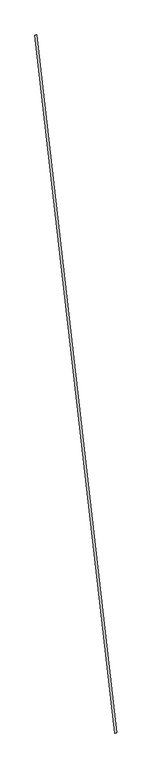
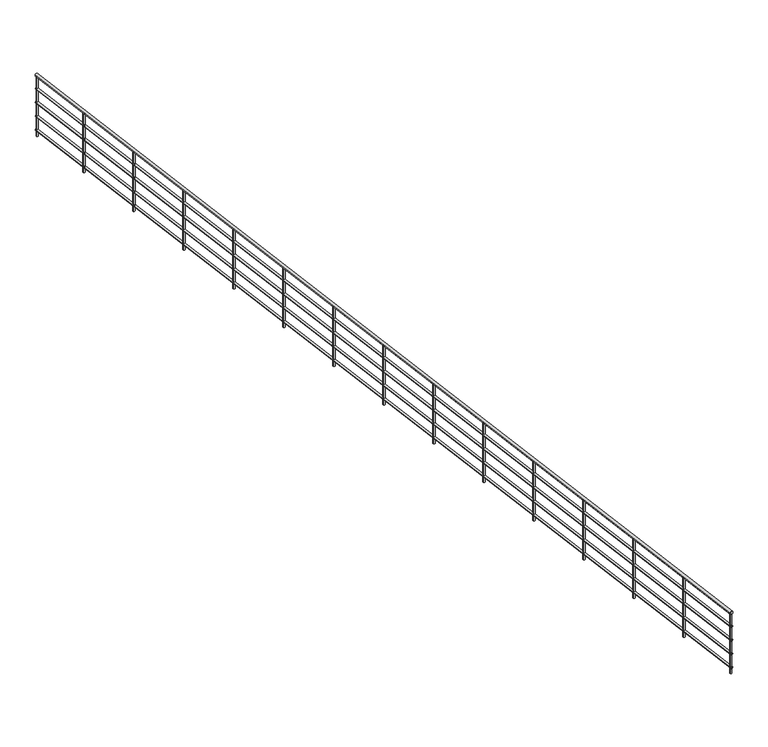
"""IFC4 building model written with IfcOpenShell, lengths in millimetres: railing geometry, r パイプ H900."""

from ifc_helpers import new_model, si_unit, point, frame, frame_2d, origin, place, context, project, spatial, circle_curve, trimmed, segment, composite_curve, outline, extrude, source, transform, mapped, element, save


def railing_1a1cc68e(model_context):
    return source(origin(), model_context, "Body", "SweptSolid", [
        extrude(outline(composite_curve([segment(trimmed(circle_curve(frame_2d((0.0, 20.0)), 20.0), [point((-19.9999999, 20.0))], [point((20.0, 20.0))], False, "CARTESIAN"), True, "CONTINUOUS"), segment(trimmed(circle_curve(frame_2d((0.0, 20.0)), 20.0), [point((20.0, 20.0))], [point((-19.9999999, 20.0))], False, "CARTESIAN"), True, "CONTINUOUS")], self_intersect=False)), frame((2778.8599143, -3447.4744365, 29500.0), z_axis=(-0.11354659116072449, 0.9935326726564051, 0.0), x_axis=(0.9935326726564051, 0.11354659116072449, 0.0)), (0.0, 0.0, 1.0), 13900.0),
        extrude(outline(composite_curve([segment(trimmed(circle_curve(frame_2d((0.0, 15.0)), 15.0), [point((-15.0, 15.0))], [point((15.0, 15.0))], False, "CARTESIAN"), True, "CONTINUOUS"), segment(trimmed(circle_curve(frame_2d((0.0, 15.0)), 15.0), [point((15.0, 15.0))], [point((-15.0, 15.0))], False, "CARTESIAN"), True, "CONTINUOUS")], self_intersect=False)), frame((2778.8599143, -3447.4744365, 29300.0), z_axis=(-0.11354659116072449, 0.9935326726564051, 0.0), x_axis=(0.9935326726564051, 0.11354659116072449, 0.0)), (0.0, 0.0, 1.0), 13900.0),
        extrude(outline(composite_curve([segment(trimmed(circle_curve(frame_2d((0.0, 15.0)), 15.0), [point((-15.0, 15.0))], [point((15.0, 15.0))], False, "CARTESIAN"), True, "CONTINUOUS"), segment(trimmed(circle_curve(frame_2d((0.0, 15.0)), 15.0), [point((15.0, 15.0))], [point((-15.0, 15.0))], False, "CARTESIAN"), True, "CONTINUOUS")], self_intersect=False)), frame((2778.8599143, -3447.4744365, 29100.0), z_axis=(-0.11354659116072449, 0.9935326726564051, 0.0), x_axis=(0.9935326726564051, 0.11354659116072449, 0.0)), (0.0, 0.0, 1.0), 13900.0),
        extrude(outline(composite_curve([segment(trimmed(circle_curve(frame_2d((0.0, 15.0)), 15.0), [point((-15.0, 15.0))], [point((15.0, 15.0))], False, "CARTESIAN"), True, "CONTINUOUS"), segment(trimmed(circle_curve(frame_2d((0.0, 15.0)), 15.0), [point((15.0, 15.0))], [point((-15.0, 15.0))], False, "CARTESIAN"), True, "CONTINUOUS")], self_intersect=False)), frame((2778.8599143, -3447.4744365, 28900.0), z_axis=(-0.11354659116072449, 0.9935326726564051, 0.0), x_axis=(0.9935326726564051, 0.11354659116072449, 0.0)), (0.0, 0.0, 1.0), 13900.0),
        extrude(outline(composite_curve([segment(trimmed(circle_curve(frame_2d((0.0, 15.0)), 15.0), [point((-15.0, 15.0))], [point((15.0, 15.0))], False, "CARTESIAN"), True, "CONTINUOUS"), segment(trimmed(circle_curve(frame_2d((0.0, 15.0)), 15.0), [point((15.0, 15.0))], [point((-15.0, 15.0))], False, "CARTESIAN"), True, "CONTINUOUS")], self_intersect=False)), frame((2778.8599143, -3447.4744365, 28700.0), z_axis=(-0.11354659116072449, 0.9935326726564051, 0.0), x_axis=(0.9935326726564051, 0.11354659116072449, 0.0)), (0.0, 0.0, 1.0), 13900.0),
        extrude(outline(composite_curve([segment(trimmed(circle_curve(frame_2d((1308.4315588, 9418.7736744)), 12.5), [point((1296.0124004, 9417.354342))], [point((1320.8507172, 9420.1930068))], False, "CARTESIAN"), True, "CONTINUOUS"), segment(trimmed(circle_curve(frame_2d((1308.4315588, 9418.7736744)), 12.5), [point((1320.8507172, 9420.1930068))], [point((1296.0124004, 9417.354342))], False, "CARTESIAN"), True, "CONTINUOUS")], self_intersect=False)), frame((0.0, 0.0, 28600.0), z_axis=(0.0, 0.0, 1.0), x_axis=(1.0, 0.0, 0.0)), (0.0, 0.0, 1.0), 860.0),
        extrude(outline(composite_curve([segment(trimmed(circle_curve(frame_2d((1421.9781499, 8425.2410017)), 12.5), [point((1409.5589915, 8423.8216693))], [point((1434.3973083, 8426.6603341))], False, "CARTESIAN"), True, "CONTINUOUS"), segment(trimmed(circle_curve(frame_2d((1421.9781499, 8425.2410017)), 12.5), [point((1434.3973083, 8426.6603341))], [point((1409.5589915, 8423.8216693))], False, "CARTESIAN"), True, "CONTINUOUS")], self_intersect=False)), frame((0.0, 0.0, 28600.0), z_axis=(0.0, 0.0, 1.0), x_axis=(1.0, 0.0, 0.0)), (0.0, 0.0, 1.0), 860.0),
        extrude(outline(composite_curve([segment(trimmed(circle_curve(frame_2d((1535.5247411, 7431.7083291)), 12.5), [point((1523.1055827, 7430.2889967))], [point((1547.9438995, 7433.1276615))], False, "CARTESIAN"), True, "CONTINUOUS"), segment(trimmed(circle_curve(frame_2d((1535.5247411, 7431.7083291)), 12.5), [point((1547.9438995, 7433.1276615))], [point((1523.1055827, 7430.2889967))], False, "CARTESIAN"), True, "CONTINUOUS")], self_intersect=False)), frame((0.0, 0.0, 28600.0), z_axis=(0.0, 0.0, 1.0), x_axis=(1.0, 0.0, 0.0)), (0.0, 0.0, 1.0), 860.0),
        extrude(outline(composite_curve([segment(trimmed(circle_curve(frame_2d((1649.0713323, 6438.1756564)), 12.5), [point((1636.6521739, 6436.756324))], [point((1661.4904907, 6439.5949888))], False, "CARTESIAN"), True, "CONTINUOUS"), segment(trimmed(circle_curve(frame_2d((1649.0713323, 6438.1756564)), 12.5), [point((1661.4904907, 6439.5949888))], [point((1636.6521739, 6436.756324))], False, "CARTESIAN"), True, "CONTINUOUS")], self_intersect=False)), frame((0.0, 0.0, 28600.0), z_axis=(0.0, 0.0, 1.0), x_axis=(1.0, 0.0, 0.0)), (0.0, 0.0, 1.0), 860.0),
        extrude(outline(composite_curve([segment(trimmed(circle_curve(frame_2d((1762.6179234, 5444.6429838)), 12.5), [point((1750.198765, 5443.2236514))], [point((1775.0370818, 5446.0623161))], False, "CARTESIAN"), True, "CONTINUOUS"), segment(trimmed(circle_curve(frame_2d((1762.6179234, 5444.6429838)), 12.5), [point((1775.0370818, 5446.0623161))], [point((1750.198765, 5443.2236514))], False, "CARTESIAN"), True, "CONTINUOUS")], self_intersect=False)), frame((0.0, 0.0, 28600.0), z_axis=(0.0, 0.0, 1.0), x_axis=(1.0, 0.0, 0.0)), (0.0, 0.0, 1.0), 860.0),
        extrude(outline(composite_curve([segment(trimmed(circle_curve(frame_2d((1876.1645146, 4451.1103111)), 12.5), [point((1863.7453562, 4449.6909787))], [point((1888.583673, 4452.5296435))], False, "CARTESIAN"), True, "CONTINUOUS"), segment(trimmed(circle_curve(frame_2d((1876.1645146, 4451.1103111)), 12.5), [point((1888.583673, 4452.5296435))], [point((1863.7453562, 4449.6909787))], False, "CARTESIAN"), True, "CONTINUOUS")], self_intersect=False)), frame((0.0, 0.0, 28600.0), z_axis=(0.0, 0.0, 1.0), x_axis=(1.0, 0.0, 0.0)), (0.0, 0.0, 1.0), 860.0),
        extrude(outline(composite_curve([segment(trimmed(circle_curve(frame_2d((1989.7111057, 3457.5776384)), 12.5), [point((1977.2919473, 3456.1583061))], [point((2002.1302642, 3458.9969708))], False, "CARTESIAN"), True, "CONTINUOUS"), segment(trimmed(circle_curve(frame_2d((1989.7111057, 3457.5776384)), 12.5), [point((2002.1302642, 3458.9969708))], [point((1977.2919473, 3456.1583061))], False, "CARTESIAN"), True, "CONTINUOUS")], self_intersect=False)), frame((0.0, 0.0, 28600.0), z_axis=(0.0, 0.0, 1.0), x_axis=(1.0, 0.0, 0.0)), (0.0, 0.0, 1.0), 860.0),
        extrude(outline(composite_curve([segment(trimmed(circle_curve(frame_2d((2103.2576969, 2464.0449658)), 12.5), [point((2090.8385385, 2462.6256334))], [point((2115.6768553, 2465.4642982))], False, "CARTESIAN"), True, "CONTINUOUS"), segment(trimmed(circle_curve(frame_2d((2103.2576969, 2464.0449658)), 12.5), [point((2115.6768553, 2465.4642982))], [point((2090.8385385, 2462.6256334))], False, "CARTESIAN"), True, "CONTINUOUS")], self_intersect=False)), frame((0.0, 0.0, 28600.0), z_axis=(0.0, 0.0, 1.0), x_axis=(1.0, 0.0, 0.0)), (0.0, 0.0, 1.0), 860.0),
        extrude(outline(composite_curve([segment(trimmed(circle_curve(frame_2d((2216.8042881, 1470.5122931)), 12.5), [point((2204.3851297, 1469.0929607))], [point((2229.2234465, 1471.9316255))], False, "CARTESIAN"), True, "CONTINUOUS"), segment(trimmed(circle_curve(frame_2d((2216.8042881, 1470.5122931)), 12.5), [point((2229.2234465, 1471.9316255))], [point((2204.3851297, 1469.0929607))], False, "CARTESIAN"), True, "CONTINUOUS")], self_intersect=False)), frame((0.0, 0.0, 28600.0), z_axis=(0.0, 0.0, 1.0), x_axis=(1.0, 0.0, 0.0)), (0.0, 0.0, 1.0), 860.0),
        extrude(outline(composite_curve([segment(trimmed(circle_curve(frame_2d((2330.3508792, 476.9796205)), 12.5), [point((2317.9317208, 475.5602881))], [point((2342.7700376, 478.3989529))], False, "CARTESIAN"), True, "CONTINUOUS"), segment(trimmed(circle_curve(frame_2d((2330.3508792, 476.9796205)), 12.5), [point((2342.7700376, 478.3989529))], [point((2317.9317208, 475.5602881))], False, "CARTESIAN"), True, "CONTINUOUS")], self_intersect=False)), frame((0.0, 0.0, 28600.0), z_axis=(0.0, 0.0, 1.0), x_axis=(1.0, 0.0, 0.0)), (0.0, 0.0, 1.0), 860.0),
        extrude(outline(composite_curve([segment(trimmed(circle_curve(frame_2d((2443.8974704, -516.5530522)), 12.5), [point((2431.478312, -517.9723846))], [point((2456.3166288, -515.1337198))], False, "CARTESIAN"), True, "CONTINUOUS"), segment(trimmed(circle_curve(frame_2d((2443.8974704, -516.5530522)), 12.5), [point((2456.3166288, -515.1337198))], [point((2431.478312, -517.9723846))], False, "CARTESIAN"), True, "CONTINUOUS")], self_intersect=False)), frame((0.0, 0.0, 28600.0), z_axis=(0.0, 0.0, 1.0), x_axis=(1.0, 0.0, 0.0)), (0.0, 0.0, 1.0), 860.0),
        extrude(outline(composite_curve([segment(trimmed(circle_curve(frame_2d((2557.4440615, -1510.0857248)), 12.5), [point((2545.0249031, -1511.5050572))], [point((2569.86322, -1508.6663925))], False, "CARTESIAN"), True, "CONTINUOUS"), segment(trimmed(circle_curve(frame_2d((2557.4440615, -1510.0857248)), 12.5), [point((2569.86322, -1508.6663925))], [point((2545.0249031, -1511.5050572))], False, "CARTESIAN"), True, "CONTINUOUS")], self_intersect=False)), frame((0.0, 0.0, 28600.0), z_axis=(0.0, 0.0, 1.0), x_axis=(1.0, 0.0, 0.0)), (0.0, 0.0, 1.0), 860.0),
        extrude(outline(composite_curve([segment(trimmed(circle_curve(frame_2d((2670.9906527, -2503.6183975)), 12.5), [point((2658.5714943, -2505.0377299))], [point((2683.4098111, -2502.1990651))], False, "CARTESIAN"), True, "CONTINUOUS"), segment(trimmed(circle_curve(frame_2d((2670.9906527, -2503.6183975)), 12.5), [point((2683.4098111, -2502.1990651))], [point((2658.5714943, -2505.0377299))], False, "CARTESIAN"), True, "CONTINUOUS")], self_intersect=False)), frame((0.0, 0.0, 28600.0), z_axis=(0.0, 0.0, 1.0), x_axis=(1.0, 0.0, 0.0)), (0.0, 0.0, 1.0), 860.0),
        extrude(outline(composite_curve([segment(trimmed(circle_curve(frame_2d((1201.9460439, 10350.5219292)), 12.5), [point((1189.5268855, 10349.1025968))], [point((1214.3652023, 10351.9412616))], False, "CARTESIAN"), True, "CONTINUOUS"), segment(trimmed(circle_curve(frame_2d((1201.9460439, 10350.5219292)), 12.5), [point((1214.3652023, 10351.9412616))], [point((1189.5268855, 10349.1025968))], False, "CARTESIAN"), True, "CONTINUOUS")], self_intersect=False)), frame((0.0, 0.0, 28600.0), z_axis=(0.0, 0.0, 1.0), x_axis=(1.0, 0.0, 0.0)), (0.0, 0.0, 1.0), 860.0),
        extrude(outline(composite_curve([segment(trimmed(circle_curve(frame_2d((2777.4761675, -3435.3666523)), 12.5), [point((2765.0570091, -3436.7859847))], [point((2789.895326, -3433.94732))], False, "CARTESIAN"), True, "CONTINUOUS"), segment(trimmed(circle_curve(frame_2d((2777.4761675, -3435.3666523)), 12.5), [point((2789.895326, -3433.94732))], [point((2765.0570091, -3436.7859847))], False, "CARTESIAN"), True, "CONTINUOUS")], self_intersect=False)), frame((0.0, 0.0, 28600.0), z_axis=(0.0, 0.0, 1.0), x_axis=(1.0, 0.0, 0.0)), (0.0, 0.0, 1.0), 860.0),
    ])


if __name__ == "__main__":
    model = new_model("IFC4")
    model_context = context("Model", 3, world=origin())
    ifc_project = project(units=[si_unit("LENGTHUNIT", "METRE", prefix="MILLI")], contexts=[model_context])
    site = spatial("IfcSite", under=ifc_project)
    building = spatial("IfcBuilding", under=site)
    placement = place(None, origin())
    railing_shape = railing_1a1cc68e(model_context)
    element("IfcRailing", 1, ObjectType="r パイプ H900", at=placement, inside=building, context=model_context, shape_type="MappedRepresentation", body=[
        mapped(railing_shape, transform((0.0, 0.0, 0.0), x_axis=(1.0, 0.0, 0.0), y_axis=(0.0, 1.0, 0.0), z_axis=(0.0, 0.0, 1.0))),
    ])
    save(model, "model.ifc")
